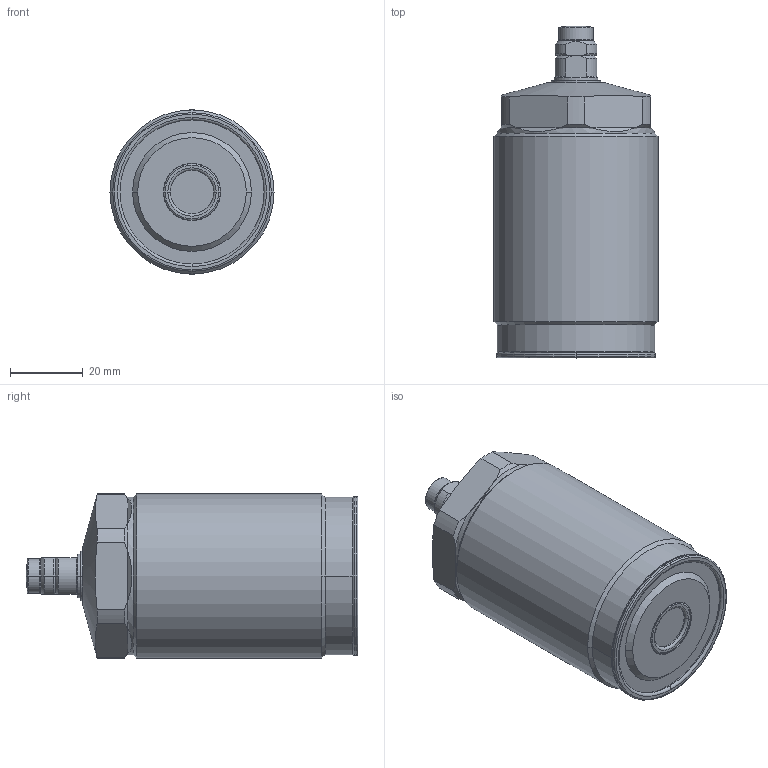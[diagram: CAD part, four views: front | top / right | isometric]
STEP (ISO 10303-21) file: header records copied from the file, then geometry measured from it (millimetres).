
FILE_DESCRIPTION(/* description */ (''),/* implementation_level */ '2;1');
FILE_NAME(/* name */ 'TNL45-M.stp',/* time_stamp */ '2025-01-09T09:37:23+08:00',/* author */ (''),/* organization */ (''),/* preprocessor_version */ 'ST-DEVELOPER v16.7',/* originating_system */ 'SIEMENS PLM Software NX 12.0',/* authorisation */ '');
FILE_SCHEMA (('AUTOMOTIVE_DESIGN { 1 0 10303 214 3 1 1 1 }'));
Length unit declared in the file: millimetre
Products named in the file (9): XLD-M8SP_pad; XLD-M8SP_pin; XLD-M8_Oring954; XLD-M8SP_contactbolt; TNL45-M-03; TNL45-M-02; TNL45-M-01; TNL45-M-04; TNL45-M_stp
Assembly tree (8 placements, depth 3):
  TNL45-M_stp
    TNL45-M-01
    TNL45-M-02
    TNL45-M-03
    TNL45-M-04
      XLD-M8SP_contactbolt
      XLD-M8_Oring954
      XLD-M8SP_pin
      XLD-M8SP_pad
Bounding box: 45 x 91 x 45 mm (x, y, z)
Volume: 115164.1 mm3; surface area: 16141 mm2
Topology: 7 solids, 7 shells, 184 faces, 412 edges, 248 vertices
Faces by surface type: cylinder 58, plane 42, torus 41, cone 37, sphere 6
Full cylindrical faces by diameter (mm): 43.2 x1, 45 x1
Entity records: 5719 total; most frequent: CARTESIAN_POINT 1311, DIRECTION 983, ORIENTED_EDGE 816, AXIS2_PLACEMENT_3D 434, EDGE_CURVE 408, VERTEX_POINT 248, CIRCLE 235, EDGE_LOOP 208
